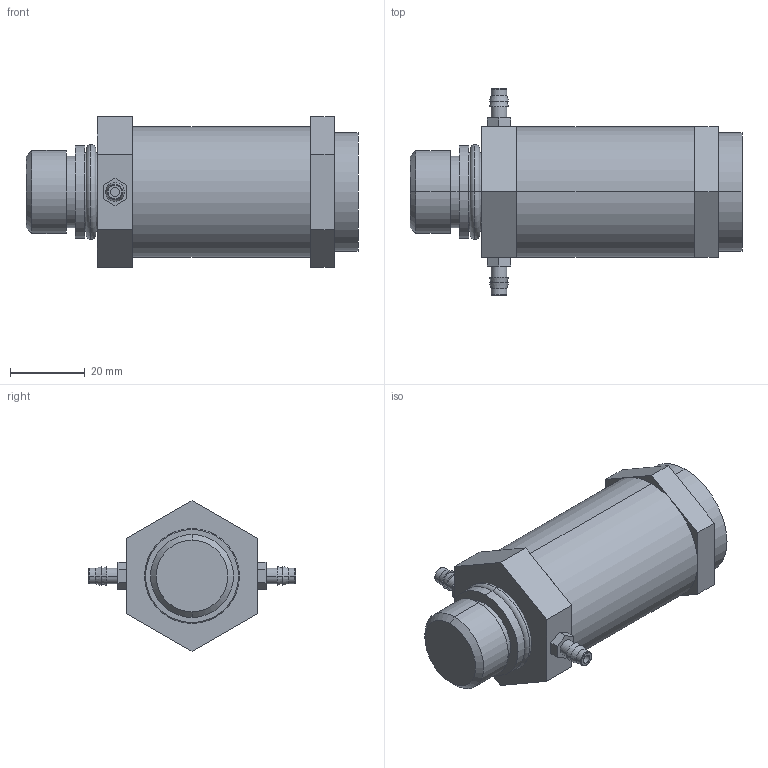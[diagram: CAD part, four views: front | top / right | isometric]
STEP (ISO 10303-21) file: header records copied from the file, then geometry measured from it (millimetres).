
FILE_DESCRIPTION((''),'2;1');
FILE_NAME('UFR3_ASM','2017-08-24T',('jennifer.elliott'),('CenterLine (Windsor) Ltd - Automation Components Division'),'PRO/ENGINEER BY PARAMETRIC TECHNOLOGY CORPORATION, 2015030','PRO/ENGINEER BY PARAMETRIC TECHNOLOGY CORPORATION, 2015030','');
FILE_SCHEMA(('AUTOMOTIVE_DESIGN { 1 0 10303 214 1 1 1 1 }'));
Length unit declared in the file: inch
Products named in the file (8): PRT0150; PRT0151; PRT0152; PRT0153; PRT0154; PRT0155; PRT0156; UFR3_ASM
Assembly tree (7 placements, depth 2):
  UFR3_ASM
    PRT0150
    PRT0151
    PRT0152
    PRT0153
    PRT0154
    PRT0155
    PRT0156
Bounding box: 88.9 x 55.55 x 40.33 mm (x, y, z)
Volume: 75302.6 mm3; surface area: 18453.2 mm2
Topology: 7 solids, 7 shells, 92 faces, 192 edges, 122 vertices
Faces by surface type: plane 46, cylinder 24, torus 12, cone 10
Entity records: 2977 total; most frequent: DIRECTION 492, CARTESIAN_POINT 443, ORIENTED_EDGE 384, AXIS2_PLACEMENT_3D 193, EDGE_CURVE 192, VERTEX_POINT 122, VECTOR 106, LINE 106
